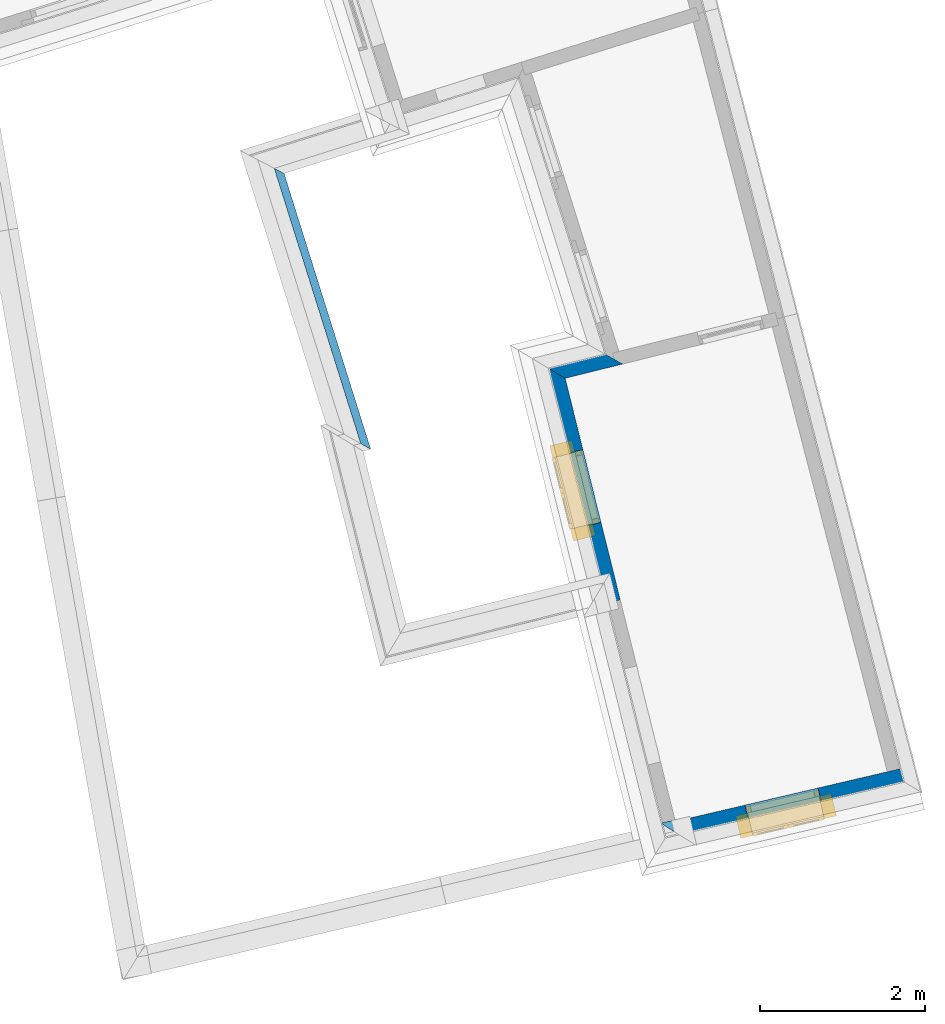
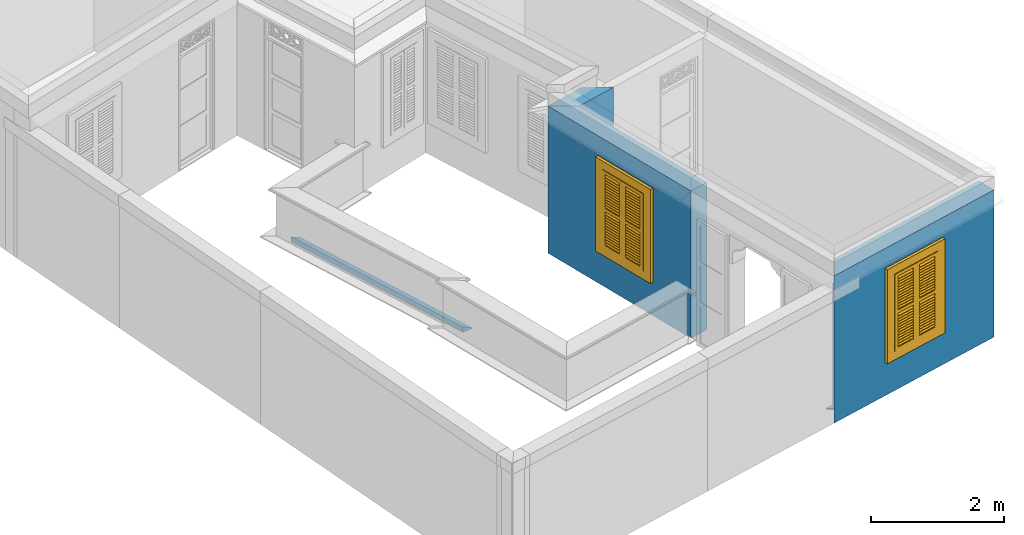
# One storey, part 2 of 13: 5 walls, 2 windows, 2 openings.
"""IFC4 building model written with IfcOpenShell, lengths in metres."""

from ifc_helpers import new_model, si_unit, frame, origin, origin_with_axes, place, context, subcontext, project, spatial, polyline, outline, extrude, clip, halfspace, faceted_brep, source, transform, mapped, material, layer, layer_set, layer_usage, material_profile, profile_set, profile_usage, type_object, type_shapes, element, fill, save


model = new_model("IFC4")

# Units and contexts
model_context = context("Model", 3, world=origin_with_axes())
body_context = subcontext(model_context, "Body", "Model", "MODEL_VIEW")
ifc_project = project(units=[si_unit("PLANEANGLEUNIT", "RADIAN"), si_unit("MASSUNIT", "GRAM", prefix="KILO"), si_unit("FORCEUNIT", "NEWTON", prefix="KILO"), si_unit("LENGTHUNIT", "METRE"), si_unit("AREAUNIT", "SQUARE_METRE"), si_unit("VOLUMEUNIT", "CUBIC_METRE")], contexts=[model_context, model_context])

# Site, building, storey
site_placement = place(None, origin_with_axes())
site = spatial("IfcSite", under=ifc_project, at=site_placement, Name="Site plot-0", CompositionType="ELEMENT")
building_placement = place(None, origin_with_axes())
building = spatial("IfcBuilding", under=site, at=building_placement, Name="Building plot-0", CompositionType="ELEMENT")
storey_placement = place(None, frame((0.0, 0.0, 3.6), z_axis=(0.0, 0.0, 1.0), x_axis=(1.0, 0.0, 0.0)))
storey = spatial("IfcBuildingStorey", under=building, at=storey_placement, Name="plot-0 1", CompositionType="ELEMENT", Elevation=3.6)

# Wall
ifc_material = material(Name="Masonry")
ifc_layer = layer(ifc_material, 0.33, ventilated=False)
ifc_layer_set = layer_set([ifc_layer], Name="exterior_0.08_0.25")
ifc_layer_usage = layer_usage(ifc_layer_set, "AXIS2", "POSITIVE", -0.25)
wall_type_1 = type_object("IfcWallType", Name="exterior_0.08_0.25", PredefinedType="SOLIDWALL", material=ifc_layer_set)
wall_1_placement = place(storey_placement, frame((7.44525118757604, 6.24690220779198, 0.0), z_axis=(0.0, 0.0, 1.0), x_axis=(-0.970472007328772, -0.241213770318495, 0.0)))
element("IfcWall", 1, at=wall_1_placement, inside=storey, type_object=wall_type_1, material=ifc_layer_usage, Name="exterior", context=body_context, shape_type="SweptSolid", body=[
    extrude(outline(polyline([(-0.0850170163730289, 0.0799999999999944), (0.265678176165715, -0.250000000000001), (0.963971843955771, -0.25), (0.633971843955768, 0.0799999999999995), (-0.0850170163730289, 0.0799999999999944)])), origin_with_axes(), (0.0, 0.0, 1.0), 2.7),
])

# Wall, opening, window
wall_2_placement = place(storey_placement, frame((6.75236149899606, 6.07468236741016, 0.0), z_axis=(0.0, 0.0, 1.0), x_axis=(0.241213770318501, -0.970472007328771, 0.0)))
wall_2 = element("IfcWall", 2, at=wall_2_placement, inside=storey, type_object=wall_type_1, material=ifc_layer_usage, Name="exterior", context=body_context, shape_type="SweptSolid", body=[
    extrude(outline(polyline([(0.0799999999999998, 0.0800000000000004), (-0.250000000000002, -0.250000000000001), (2.84744784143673, -0.25), (2.84744784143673, 0.08), (0.0799999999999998, 0.0800000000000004)])), origin_with_axes(), (0.0, 0.0, 1.0), 2.7),
])
opening_1_placement = place(wall_2_placement, frame((0.968723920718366, 0.0, 0.75)))
opening_1 = element("IfcOpeningElement", 3, at=opening_1_placement, cuts=wall_2, Name="My Opening", ObjectType="Opening", context=body_context, shape_type="SweptSolid", body=[
    extrude(outline(polyline([(0.0, -0.269999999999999), (0.910000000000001, -0.27), (0.91, 1.1), (-3.33066907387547e-16, 1.1), (0.0, -0.269999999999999)])), origin_with_axes(), (0.0, 0.0, 1.0), 1.445),
])
window_type = type_object("IfcWindowType", Name="shuttered_shorter", PartitioningType="DOUBLE_PANEL_HORIZONTAL", PredefinedType="NOTDEFINED")
shared_shape = source(origin(), body_context, "Body", "Brep", [
    faceted_brep([(0.393, 0.0, 0.622), (0.074, 0.0, 0.622), (0.074, 0.0, 0.632), (0.393, 0.0, 0.632), (0.074, -0.04, 0.592), (0.393, -0.04, 0.592), (0.393, -0.04, 0.582), (0.074, -0.04, 0.582), (0.517, 0.0, 0.682), (0.836, 0.0, 0.682), (0.836, 0.0, 0.672), (0.517, 0.0, 0.672), (0.517, -0.04, 0.642), (0.836, -0.04, 0.642), (0.836, -0.04, 0.632), (0.517, -0.04, 0.632), (0.517, 0.0, 0.632), (0.836, 0.0, 0.632), (0.836, 0.0, 0.622), (0.517, 0.0, 0.622), (0.517, -0.04, 0.592), (0.836, -0.04, 0.592), (0.836, -0.04, 0.582), (0.517, -0.04, 0.582), (0.517, 0.0, 0.232), (0.836, 0.0, 0.232), (0.836, 0.0, 0.222), (0.517, 0.0, 0.222), (0.517, -0.04, 0.192), (0.836, -0.04, 0.192), (0.836, -0.04, 0.182), (0.517, -0.04, 0.182), (0.517, 0.0, 0.532), (0.836, 0.0, 0.532), (0.836, 0.0, 0.522), (0.517, 0.0, 0.522), (0.517, -0.04, 0.492), (0.836, -0.04, 0.492), (0.836, -0.04, 0.482), (0.517, -0.04, 0.482), (0.517, 0.0, 0.482), (0.836, 0.0, 0.482), (0.836, 0.0, 0.472), (0.517, 0.0, 0.472), (0.517, -0.04, 0.442), (0.836, -0.04, 0.442), (0.836, -0.04, 0.432), (0.517, -0.04, 0.432), (0.517, 0.0, 0.582), (0.836, 0.0, 0.582), (0.836, 0.0, 0.572), (0.517, 0.0, 0.572), (0.517, -0.04, 0.542), (0.836, -0.04, 0.542), (0.836, -0.04, 0.532), (0.517, -0.04, 0.532), (0.517, 0.0, 0.182), (0.836, 0.0, 0.182), (0.836, 0.0, 0.172), (0.517, 0.0, 0.172), (0.517, -0.04, 0.142), (0.836, -0.04, 0.142), (0.836, -0.04, 0.132), (0.517, -0.04, 0.132), (0.517, 0.0, 0.382), (0.836, 0.0, 0.382), (0.836, 0.0, 0.372), (0.517, 0.0, 0.372), (0.517, -0.04, 0.342), (0.836, -0.04, 0.342), (0.836, -0.04, 0.332), (0.517, -0.04, 0.332), (0.517, 0.0, 0.432), (0.836, 0.0, 0.432), (0.836, 0.0, 0.422), (0.517, 0.0, 0.422), (0.517, -0.04, 0.392), (0.836, -0.04, 0.392), (0.836, -0.04, 0.382), (0.517, -0.04, 0.382), (0.517, 0.0, 0.132), (0.836, 0.0, 0.132), (0.836, 0.0, 0.122), (0.517, 0.0, 0.122), (0.517, -0.04, 0.092), (0.836, -0.04, 0.092), (0.836, -0.04, 0.082), (0.517, -0.04, 0.082), (0.517, 0.0, 0.282), (0.836, 0.0, 0.282), (0.836, 0.0, 0.272), (0.517, 0.0, 0.272), (0.517, -0.04, 0.242), (0.836, -0.04, 0.242), (0.836, -0.04, 0.232), (0.517, -0.04, 0.232), (0.517, 0.0, 0.332), (0.836, 0.0, 0.332), (0.836, 0.0, 0.322), (0.517, 0.0, 0.322), (0.517, -0.04, 0.292), (0.836, -0.04, 0.292), (0.836, -0.04, 0.282), (0.517, -0.04, 0.282), (0.517, 0.0, 1.362667), (0.836, 0.0, 1.362667), (0.836, 0.0, 1.352667), (0.517, 0.0, 1.352667), (0.517, -0.04, 1.322667), (0.836, -0.04, 1.322667), (0.836, -0.04, 1.312667), (0.517, -0.04, 1.312667), (0.517, 0.0, 1.312667), (0.836, 0.0, 1.312667), (0.836, 0.0, 1.302667), (0.517, 0.0, 1.302667), (0.517, -0.04, 1.272667), (0.836, -0.04, 1.272667), (0.836, -0.04, 1.262667), (0.517, -0.04, 1.262667), (0.517, 0.0, 0.912667), (0.836, 0.0, 0.912667), (0.836, 0.0, 0.902667), (0.517, 0.0, 0.902667), (0.517, -0.04, 0.872667), (0.836, -0.04, 0.872667), (0.836, -0.04, 0.862667), (0.517, -0.04, 0.862667), (0.517, 0.0, 1.212667), (0.836, 0.0, 1.212667), (0.836, 0.0, 1.202667), (0.517, 0.0, 1.202667), (0.517, -0.04, 1.172667), (0.836, -0.04, 1.172667), (0.836, -0.04, 1.162667), (0.517, -0.04, 1.162667), (0.517, 0.0, 1.162667), (0.836, 0.0, 1.162667), (0.836, 0.0, 1.152667), (0.517, 0.0, 1.152667), (0.517, -0.04, 1.122667), (0.836, -0.04, 1.122667), (0.836, -0.04, 1.112667), (0.517, -0.04, 1.112667), (0.517, 0.0, 1.262667), (0.836, 0.0, 1.262667), (0.836, 0.0, 1.252667), (0.517, 0.0, 1.252667), (0.517, -0.04, 1.222667), (0.836, -0.04, 1.222667), (0.836, -0.04, 1.212667), (0.517, -0.04, 1.212667), (0.517, 0.0, 0.862667), (0.836, 0.0, 0.862667), (0.836, 0.0, 0.852667), (0.517, 0.0, 0.852667), (0.517, -0.04, 0.822667), (0.836, -0.04, 0.822667), (0.836, -0.04, 0.812667), (0.517, -0.04, 0.812667), (0.517, 0.0, 1.062667), (0.836, 0.0, 1.062667), (0.836, 0.0, 1.052667), (0.517, 0.0, 1.052667), (0.517, -0.04, 1.022667), (0.836, -0.04, 1.022667), (0.836, -0.04, 1.012667), (0.517, -0.04, 1.012667), (0.517, 0.0, 1.112667), (0.836, 0.0, 1.112667), (0.836, 0.0, 1.102667), (0.517, 0.0, 1.102667), (0.517, -0.04, 1.072667), (0.836, -0.04, 1.072667), (0.836, -0.04, 1.062667), (0.517, -0.04, 1.062667), (0.517, 0.0, 0.812667), (0.836, 0.0, 0.812667), (0.836, 0.0, 0.802667), (0.517, 0.0, 0.802667), (0.517, -0.04, 0.772667), (0.836, -0.04, 0.772667), (0.836, -0.04, 0.762667), (0.517, -0.04, 0.762667), (0.517, 0.0, 0.962667), (0.836, 0.0, 0.962667), (0.836, 0.0, 0.952667), (0.517, 0.0, 0.952667), (0.517, -0.04, 0.922667), (0.836, -0.04, 0.922667), (0.836, -0.04, 0.912667), (0.517, -0.04, 0.912667), (0.517, 0.0, 1.012667), (0.836, 0.0, 1.012667), (0.836, 0.0, 1.002667), (0.517, 0.0, 1.002667), (0.517, -0.04, 0.972667), (0.836, -0.04, 0.972667), (0.836, -0.04, 0.962667), (0.517, -0.04, 0.962667), (0.074, 0.0, 0.682), (0.393, 0.0, 0.682), (0.393, 0.0, 0.672), (0.074, 0.0, 0.672), (0.074, -0.04, 0.642), (0.393, -0.04, 0.642), (0.393, -0.04, 0.632), (0.074, -0.04, 0.632), (0.074, 0.0, 0.232), (0.393, 0.0, 0.232), (0.393, 0.0, 0.222), (0.074, 0.0, 0.222), (0.074, -0.04, 0.192), (0.393, -0.04, 0.192), (0.393, -0.04, 0.182), (0.074, -0.04, 0.182), (0.074, 0.0, 0.532), (0.393, 0.0, 0.532), (0.393, 0.0, 0.522), (0.074, 0.0, 0.522), (0.074, -0.04, 0.492), (0.393, -0.04, 0.492), (0.393, -0.04, 0.482), (0.074, -0.04, 0.482), (0.074, 0.0, 0.482), (0.393, 0.0, 0.482), (0.393, 0.0, 0.472), (0.074, 0.0, 0.472), (0.074, -0.04, 0.442), (0.393, -0.04, 0.442), (0.393, -0.04, 0.432), (0.074, -0.04, 0.432), (0.074, 0.0, 0.582), (0.393, 0.0, 0.582), (0.393, 0.0, 0.572), (0.074, 0.0, 0.572), (0.074, -0.04, 0.542), (0.393, -0.04, 0.542), (0.393, -0.04, 0.532), (0.074, -0.04, 0.532), (0.074, 0.0, 0.182), (0.393, 0.0, 0.182), (0.393, 0.0, 0.172), (0.074, 0.0, 0.172), (0.074, -0.04, 0.142), (0.393, -0.04, 0.142), (0.393, -0.04, 0.132), (0.074, -0.04, 0.132), (0.074, 0.0, 0.382), (0.393, 0.0, 0.382), (0.393, 0.0, 0.372), (0.074, 0.0, 0.372), (0.074, -0.04, 0.342), (0.393, -0.04, 0.342), (0.393, -0.04, 0.332), (0.074, -0.04, 0.332), (0.074, 0.0, 0.432), (0.393, 0.0, 0.432), (0.393, 0.0, 0.422), (0.074, 0.0, 0.422), (0.074, -0.04, 0.392), (0.393, -0.04, 0.392), (0.393, -0.04, 0.382), (0.074, -0.04, 0.382), (0.074, 0.0, 0.132), (0.393, 0.0, 0.132), (0.393, 0.0, 0.122), (0.074, 0.0, 0.122), (0.074, -0.04, 0.092), (0.393, -0.04, 0.092), (0.393, -0.04, 0.082), (0.074, -0.04, 0.082), (0.074, 0.0, 0.282), (0.393, 0.0, 0.282), (0.393, 0.0, 0.272), (0.074, 0.0, 0.272), (0.074, -0.04, 0.242), (0.393, -0.04, 0.242), (0.393, -0.04, 0.232), (0.074, -0.04, 0.232), (0.074, 0.0, 0.332), (0.393, 0.0, 0.332), (0.393, 0.0, 0.322), (0.074, 0.0, 0.322), (0.074, -0.04, 0.292), (0.393, -0.04, 0.292), (0.393, -0.04, 0.282), (0.074, -0.04, 0.282), (0.074, 0.0, 1.362667), (0.393, 0.0, 1.362667), (0.393, 0.0, 1.352667), (0.074, 0.0, 1.352667), (0.074, -0.04, 1.322667), (0.393, -0.04, 1.322667), (0.393, -0.04, 1.312667), (0.074, -0.04, 1.312667), (0.074, 0.0, 1.312667), (0.393, 0.0, 1.312667), (0.393, 0.0, 1.302667), (0.074, 0.0, 1.302667), (0.074, -0.04, 1.272667), (0.393, -0.04, 1.272667), (0.393, -0.04, 1.262667), (0.074, -0.04, 1.262667), (0.074, 0.0, 0.912667), (0.393, 0.0, 0.912667), (0.393, 0.0, 0.902667), (0.074, 0.0, 0.902667), (0.074, -0.04, 0.872667), (0.393, -0.04, 0.872667), (0.393, -0.04, 0.862667), (0.074, -0.04, 0.862667), (0.074, 0.0, 1.212667), (0.393, 0.0, 1.212667), (0.393, 0.0, 1.202667), (0.074, 0.0, 1.202667), (0.074, -0.04, 1.172667), (0.393, -0.04, 1.172667), (0.393, -0.04, 1.162667), (0.074, -0.04, 1.162667), (0.074, 0.0, 1.162667), (0.393, 0.0, 1.162667), (0.393, 0.0, 1.152667), (0.074, 0.0, 1.152667), (0.074, -0.04, 1.122667), (0.393, -0.04, 1.122667), (0.393, -0.04, 1.112667), (0.074, -0.04, 1.112667), (0.074, 0.0, 1.262667), (0.393, 0.0, 1.262667), (0.393, 0.0, 1.252667), (0.074, 0.0, 1.252667), (0.074, -0.04, 1.222667), (0.393, -0.04, 1.222667), (0.393, -0.04, 1.212667), (0.074, -0.04, 1.212667), (0.074, 0.0, 0.862667), (0.393, 0.0, 0.862667), (0.393, 0.0, 0.852667), (0.074, 0.0, 0.852667), (0.074, -0.04, 0.822667), (0.393, -0.04, 0.822667), (0.393, -0.04, 0.812667), (0.074, -0.04, 0.812667), (0.074, 0.0, 1.062667), (0.393, 0.0, 1.062667), (0.393, 0.0, 1.052667), (0.074, 0.0, 1.052667), (0.074, -0.04, 1.022667), (0.393, -0.04, 1.022667), (0.393, -0.04, 1.012667), (0.074, -0.04, 1.012667), (0.074, 0.0, 1.112667), (0.393, 0.0, 1.112667), (0.393, 0.0, 1.102667), (0.074, 0.0, 1.102667), (0.074, -0.04, 1.072667), (0.393, -0.04, 1.072667), (0.393, -0.04, 1.062667), (0.074, -0.04, 1.062667), (0.074, 0.0, 0.812667), (0.393, 0.0, 0.812667), (0.393, 0.0, 0.802667), (0.074, 0.0, 0.802667), (0.074, -0.04, 0.772667), (0.393, -0.04, 0.772667), (0.393, -0.04, 0.762667), (0.074, -0.04, 0.762667), (0.074, 0.0, 0.962667), (0.393, 0.0, 0.962667), (0.393, 0.0, 0.952667), (0.074, 0.0, 0.952667), (0.074, -0.04, 0.922667), (0.393, -0.04, 0.922667), (0.393, -0.04, 0.912667), (0.074, -0.04, 0.912667), (0.074, 0.0, 1.012667), (0.393, 0.0, 1.012667), (0.393, 0.0, 1.002667), (0.074, 0.0, 1.002667), (0.074, -0.04, 0.972667), (0.393, -0.04, 0.972667), (0.393, -0.04, 0.962667), (0.074, -0.04, 0.962667), (0.517, -0.04, 0.072), (0.457, -0.04, 0.012), (0.896, -0.04, 0.012), (0.836, -0.04, 0.072), (0.457, -0.04, 0.692667), (0.517, -0.04, 0.692667), (0.457, 0.0, 0.012), (0.896, 0.0, 0.012), (0.836, -0.04, 0.692667), (0.896, -0.04, 0.692667), (0.836, 0.0, 0.072), (0.517, 0.0, 0.072), (0.457, 0.0, 0.692667), (0.517, 0.0, 0.692667), (0.517, -0.04, 0.752666), (0.457, -0.04, 0.752666), (0.896, 0.0, 0.692667), (0.836, 0.0, 0.692667), (0.836, -0.04, 0.752666), (0.896, -0.04, 0.752666), (0.457, 0.0, 0.752666), (0.457, -0.04, 1.433333), (0.517, -0.04, 1.373333), (0.896, 0.0, 0.752666), (0.836, -0.04, 1.373333), (0.896, -0.04, 1.433333), (0.457, 0.0, 1.433333), (0.517, 0.0, 0.752666), (0.836, 0.0, 0.752666), (0.517, 0.0, 1.373333), (0.896, 0.0, 1.433333), (0.836, 0.0, 1.373333), (0.074, -0.04, 0.072), (0.014, -0.04, 0.012), (0.453, -0.04, 0.012), (0.393, -0.04, 0.072), (0.014, -0.04, 0.692667), (0.074, -0.04, 0.692667), (0.014, 0.0, 0.012), (0.453, 0.0, 0.012), (0.393, -0.04, 0.692667), (0.453, -0.04, 0.692667), (0.393, 0.0, 0.072), (0.074, 0.0, 0.072), (0.014, 0.0, 0.692667), (0.074, 0.0, 0.692667), (0.074, -0.04, 0.752666), (0.014, -0.04, 0.752666), (0.453, 0.0, 0.692667), (0.393, 0.0, 0.692667), (0.393, -0.04, 0.752666), (0.453, -0.04, 0.752666), (0.014, 0.0, 0.752666), (0.014, -0.04, 1.433333), (0.074, -0.04, 1.373333), (0.453, 0.0, 0.752666), (0.393, -0.04, 1.373333), (0.453, -0.04, 1.433333), (0.014, 0.0, 1.433333), (0.074, 0.0, 0.752666), (0.393, 0.0, 0.752666), (0.074, 0.0, 1.373333), (0.453, 0.0, 1.433333), (0.393, 0.0, 1.373333), (0.0, 0.33, 1.445), (0.91, 0.33, 1.445), (0.85, 0.33, 1.385), (0.06, 0.33, 1.385), (0.91, 0.25, 1.445), (0.0, 0.25, 1.445), (0.91, 0.25, 1.445), (0.85, 0.33, 0.06), (0.91, 0.33, 0.0), (0.85, 0.25, 1.385), (0.06, 0.25, 1.385), (0.0, 0.33, 0.0), (0.06, 0.33, 0.06), (0.0, 0.25, 0.0), (0.91, 0.25, 0.0), (0.85, 0.25, 0.06), (0.06, 0.25, 0.06), (1.05, 0.25, 1.585), (-0.14, 0.25, 1.585), (-0.14, -0.03, 1.585), (1.05, -0.03, 1.585), (0.9, -0.03, 1.435), (0.01, -0.03, 1.435), (0.01, 0.25, 1.435), (0.9, 0.25, 1.435), (0.9, 0.25, 0.01), (0.9, -0.03, 0.01), (1.05, -0.03, -0.14), (1.05, 0.25, -0.14), (0.01, -0.03, 0.01), (0.01, 0.25, 0.01), (-0.14, -0.03, -0.14), (-0.14, 0.25, -0.14)], [[[0, 1, 2, 3]], [[4, 5, 3, 2]], [[5, 6, 0, 3]], [[1, 0, 6, 7]], [[2, 1, 7, 4]], [[5, 4, 7, 6]], [[8, 9, 10, 11]], [[12, 13, 9, 8]], [[13, 14, 10, 9]], [[14, 15, 11, 10]], [[15, 12, 8, 11]], [[13, 12, 15, 14]], [[16, 17, 18, 19]], [[20, 21, 17, 16]], [[21, 22, 18, 17]], [[22, 23, 19, 18]], [[23, 20, 16, 19]], [[21, 20, 23, 22]], [[24, 25, 26, 27]], [[28, 29, 25, 24]], [[29, 30, 26, 25]], [[30, 31, 27, 26]], [[31, 28, 24, 27]], [[29, 28, 31, 30]], [[32, 33, 34, 35]], [[36, 37, 33, 32]], [[37, 38, 34, 33]], [[38, 39, 35, 34]], [[39, 36, 32, 35]], [[37, 36, 39, 38]], [[40, 41, 42, 43]], [[44, 45, 41, 40]], [[45, 46, 42, 41]], [[46, 47, 43, 42]], [[47, 44, 40, 43]], [[45, 44, 47, 46]], [[48, 49, 50, 51]], [[52, 53, 49, 48]], [[53, 54, 50, 49]], [[54, 55, 51, 50]], [[55, 52, 48, 51]], [[53, 52, 55, 54]], [[56, 57, 58, 59]], [[60, 61, 57, 56]], [[61, 62, 58, 57]], [[62, 63, 59, 58]], [[63, 60, 56, 59]], [[61, 60, 63, 62]], [[64, 65, 66, 67]], [[68, 69, 65, 64]], [[69, 70, 66, 65]], [[70, 71, 67, 66]], [[71, 68, 64, 67]], [[69, 68, 71, 70]], [[72, 73, 74, 75]], [[76, 77, 73, 72]], [[77, 78, 74, 73]], [[78, 79, 75, 74]], [[79, 76, 72, 75]], [[77, 76, 79, 78]], [[80, 81, 82, 83]], [[84, 85, 81, 80]], [[85, 86, 82, 81]], [[86, 87, 83, 82]], [[87, 84, 80, 83]], [[85, 84, 87, 86]], [[88, 89, 90, 91]], [[92, 93, 89, 88]], [[93, 94, 90, 89]], [[94, 95, 91, 90]], [[95, 92, 88, 91]], [[93, 92, 95, 94]], [[96, 97, 98, 99]], [[100, 101, 97, 96]], [[101, 102, 98, 97]], [[102, 103, 99, 98]], [[103, 100, 96, 99]], [[101, 100, 103, 102]], [[104, 105, 106, 107]], [[108, 109, 105, 104]], [[109, 110, 106, 105]], [[110, 111, 107, 106]], [[111, 108, 104, 107]], [[109, 108, 111, 110]], [[112, 113, 114, 115]], [[116, 117, 113, 112]], [[117, 118, 114, 113]], [[118, 119, 115, 114]], [[119, 116, 112, 115]], [[117, 116, 119, 118]], [[120, 121, 122, 123]], [[124, 125, 121, 120]], [[125, 126, 122, 121]], [[126, 127, 123, 122]], [[127, 124, 120, 123]], [[125, 124, 127, 126]], [[128, 129, 130, 131]], [[132, 133, 129, 128]], [[133, 134, 130, 129]], [[134, 135, 131, 130]], [[135, 132, 128, 131]], [[133, 132, 135, 134]], [[136, 137, 138, 139]], [[140, 141, 137, 136]], [[141, 142, 138, 137]], [[142, 143, 139, 138]], [[139, 143, 140, 136]], [[141, 140, 143, 142]], [[144, 145, 146, 147]], [[148, 149, 145, 144]], [[149, 150, 146, 145]], [[150, 151, 147, 146]], [[151, 148, 144, 147]], [[149, 148, 151, 150]], [[152, 153, 154, 155]], [[156, 157, 153, 152]], [[157, 158, 154, 153]], [[158, 159, 155, 154]], [[159, 156, 152, 155]], [[157, 156, 159, 158]], [[160, 161, 162, 163]], [[164, 165, 161, 160]], [[165, 166, 162, 161]], [[166, 167, 163, 162]], [[167, 164, 160, 163]], [[165, 164, 167, 166]], [[168, 169, 170, 171]], [[172, 173, 169, 168]], [[173, 174, 170, 169]], [[174, 175, 171, 170]], [[175, 172, 168, 171]], [[173, 172, 175, 174]], [[176, 177, 178, 179]], [[180, 181, 177, 176]], [[181, 182, 178, 177]], [[182, 183, 179, 178]], [[183, 180, 176, 179]], [[181, 180, 183, 182]], [[184, 185, 186, 187]], [[188, 189, 185, 184]], [[189, 190, 186, 185]], [[190, 191, 187, 186]], [[191, 188, 184, 187]], [[189, 188, 191, 190]], [[192, 193, 194, 195]], [[196, 197, 193, 192]], [[197, 198, 194, 193]], [[198, 199, 195, 194]], [[199, 196, 192, 195]], [[197, 196, 199, 198]], [[200, 201, 202, 203]], [[204, 205, 201, 200]], [[205, 206, 202, 201]], [[206, 207, 203, 202]], [[207, 204, 200, 203]], [[205, 204, 207, 206]], [[208, 209, 210, 211]], [[212, 213, 209, 208]], [[213, 214, 210, 209]], [[214, 215, 211, 210]], [[215, 212, 208, 211]], [[213, 212, 215, 214]], [[216, 217, 218, 219]], [[220, 221, 217, 216]], [[221, 222, 218, 217]], [[222, 223, 219, 218]], [[223, 220, 216, 219]], [[221, 220, 223, 222]], [[224, 225, 226, 227]], [[228, 229, 225, 224]], [[229, 230, 226, 225]], [[230, 231, 227, 226]], [[231, 228, 224, 227]], [[229, 228, 231, 230]], [[232, 233, 234, 235]], [[236, 237, 233, 232]], [[237, 238, 234, 233]], [[238, 239, 235, 234]], [[239, 236, 232, 235]], [[237, 236, 239, 238]], [[240, 241, 242, 243]], [[244, 245, 241, 240]], [[245, 246, 242, 241]], [[246, 247, 243, 242]], [[247, 244, 240, 243]], [[245, 244, 247, 246]], [[248, 249, 250, 251]], [[252, 253, 249, 248]], [[253, 254, 250, 249]], [[254, 255, 251, 250]], [[255, 252, 248, 251]], [[253, 252, 255, 254]], [[256, 257, 258, 259]], [[260, 261, 257, 256]], [[261, 262, 258, 257]], [[262, 263, 259, 258]], [[263, 260, 256, 259]], [[261, 260, 263, 262]], [[264, 265, 266, 267]], [[268, 269, 265, 264]], [[269, 270, 266, 265]], [[270, 271, 267, 266]], [[271, 268, 264, 267]], [[269, 268, 271, 270]], [[272, 273, 274, 275]], [[276, 277, 273, 272]], [[277, 278, 274, 273]], [[278, 279, 275, 274]], [[279, 276, 272, 275]], [[277, 276, 279, 278]], [[280, 281, 282, 283]], [[284, 285, 281, 280]], [[285, 286, 282, 281]], [[286, 287, 283, 282]], [[287, 284, 280, 283]], [[285, 284, 287, 286]], [[288, 289, 290, 291]], [[292, 293, 289, 288]], [[293, 294, 290, 289]], [[294, 295, 291, 290]], [[295, 292, 288, 291]], [[293, 292, 295, 294]], [[296, 297, 298, 299]], [[300, 301, 297, 296]], [[301, 302, 298, 297]], [[302, 303, 299, 298]], [[303, 300, 296, 299]], [[301, 300, 303, 302]], [[304, 305, 306, 307]], [[308, 309, 305, 304]], [[309, 310, 306, 305]], [[310, 311, 307, 306]], [[311, 308, 304, 307]], [[309, 308, 311, 310]], [[312, 313, 314, 315]], [[316, 317, 313, 312]], [[317, 318, 314, 313]], [[318, 319, 315, 314]], [[319, 316, 312, 315]], [[317, 316, 319, 318]], [[320, 321, 322, 323]], [[324, 325, 321, 320]], [[325, 326, 322, 321]], [[326, 327, 323, 322]], [[327, 324, 320, 323]], [[325, 324, 327, 326]], [[328, 329, 330, 331]], [[332, 333, 329, 328]], [[333, 334, 330, 329]], [[334, 335, 331, 330]], [[335, 332, 328, 331]], [[333, 332, 335, 334]], [[336, 337, 338, 339]], [[340, 341, 337, 336]], [[341, 342, 338, 337]], [[342, 343, 339, 338]], [[343, 340, 336, 339]], [[341, 340, 343, 342]], [[344, 345, 346, 347]], [[348, 349, 345, 344]], [[349, 350, 346, 345]], [[350, 351, 347, 346]], [[351, 348, 344, 347]], [[349, 348, 351, 350]], [[352, 353, 354, 355]], [[356, 357, 353, 352]], [[357, 358, 354, 353]], [[358, 359, 355, 354]], [[359, 356, 352, 355]], [[357, 356, 359, 358]], [[360, 361, 362, 363]], [[364, 365, 361, 360]], [[365, 366, 362, 361]], [[366, 367, 363, 362]], [[367, 364, 360, 363]], [[365, 364, 367, 366]], [[368, 369, 370, 371]], [[372, 373, 369, 368]], [[373, 374, 370, 369]], [[374, 375, 371, 370]], [[375, 372, 368, 371]], [[373, 372, 375, 374]], [[376, 377, 378, 379]], [[380, 381, 377, 376]], [[381, 382, 378, 377]], [[382, 383, 379, 378]], [[383, 380, 376, 379]], [[381, 380, 383, 382]], [[384, 385, 386, 387]], [[388, 385, 384, 389]], [[390, 391, 386, 385]], [[392, 387, 386, 393]], [[384, 387, 394, 395]], [[390, 385, 388, 396]], [[389, 384, 395, 397]], [[389, 398, 399, 388]], [[390, 395, 394, 391]], [[400, 393, 386, 391]], [[387, 392, 401, 394]], [[402, 392, 393, 403]], [[396, 388, 399, 404]], [[390, 396, 397, 395]], [[392, 389, 397, 401]], [[398, 389, 392, 402]], [[405, 399, 398, 406]], [[394, 401, 400, 391]], [[407, 403, 393, 400]], [[408, 402, 403, 409]], [[404, 399, 405, 410]], [[411, 397, 396, 404]], [[397, 411, 412, 401]], [[398, 402, 412, 411]], [[406, 398, 411, 413]], [[405, 406, 408, 409]], [[401, 412, 407, 400]], [[414, 409, 403, 407]], [[402, 408, 415, 412]], [[405, 409, 414, 410]], [[404, 410, 413, 411]], [[408, 406, 413, 415]], [[412, 415, 414, 407]], [[413, 410, 414, 415]], [[416, 417, 418, 419]], [[420, 417, 416, 421]], [[422, 423, 418, 417]], [[424, 419, 418, 425]], [[416, 419, 426, 427]], [[422, 417, 420, 428]], [[421, 416, 427, 429]], [[421, 430, 431, 420]], [[422, 427, 426, 423]], [[432, 425, 418, 423]], [[419, 424, 433, 426]], [[434, 424, 425, 435]], [[428, 420, 431, 436]], [[422, 428, 429, 427]], [[424, 421, 429, 433]], [[430, 421, 424, 434]], [[437, 431, 430, 438]], [[426, 433, 432, 423]], [[439, 435, 425, 432]], [[440, 434, 435, 441]], [[436, 431, 437, 442]], [[443, 429, 428, 436]], [[429, 443, 444, 433]], [[430, 434, 444, 443]], [[438, 430, 443, 445]], [[437, 438, 440, 441]], [[433, 444, 439, 432]], [[446, 441, 435, 439]], [[434, 440, 447, 444]], [[437, 441, 446, 442]], [[436, 442, 445, 443]], [[440, 438, 445, 447]], [[444, 447, 446, 439]], [[445, 442, 446, 447]], [[448, 449, 450, 451]], [[452, 449, 448]], [[448, 453, 454]], [[448, 454, 452]], [[455, 450, 449, 456]], [[451, 450, 457, 458]], [[459, 448, 451, 460]], [[448, 459, 461, 453]], [[454, 453, 458, 457]], [[462, 452, 454]], [[454, 457, 463]], [[454, 463, 462]], [[456, 449, 452, 462]], [[450, 455, 463, 457]], [[456, 459, 460, 455]], [[460, 451, 458, 464]], [[459, 456, 462, 461]], [[464, 458, 453, 461]], [[461, 462, 463, 464]], [[455, 460, 464, 463]], [[465, 466, 467, 468]], [[469, 470, 471, 472]], [[473, 474, 469, 472]], [[465, 468, 475, 476]], [[470, 477, 478, 471]], [[474, 473, 478, 477]], [[474, 477, 479, 475]], [[470, 467, 479, 477]], [[470, 469, 468, 467]], [[474, 475, 468, 469]], [[471, 478, 480, 466]], [[473, 472, 465, 476]], [[473, 476, 480, 478]], [[466, 465, 472, 471]], [[480, 476, 475, 479]], [[480, 479, 467, 466]]]),
])
type_shapes(window_type, [shared_shape])
window_1_placement = place(storey_placement, frame((6.72400360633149, 5.06943520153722, 0.75), z_axis=(0.0, 0.0, 1.0), x_axis=(0.219504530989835, -0.883129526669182, 0.0)))
window_1 = element("IfcWindow", 4, at=window_1_placement, inside=storey, type_object=window_type, Name="circulation sahn window", OverallHeight=1.445, OverallWidth=0.91, context=body_context, shape_type="MappedRepresentation", body=[
    mapped(shared_shape, transform((0.0, 0.0, 0.0), scale=1.0)),
])
fill(opening_1, window_1)

wall_3_placement = place(storey_placement, frame((8.12533742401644, 0.550807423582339, 0.0), z_axis=(0.0, 0.0, 1.0), x_axis=(0.973652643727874, 0.22803624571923, 0.0)))
wall_3 = element("IfcWall", 5, at=wall_3_placement, inside=storey, type_object=wall_type_1, material=ifc_layer_usage, Name="exterior", context=body_context, shape_type="SweptSolid", body=[
    extrude(outline(polyline([(0.0789228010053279, 0.0799999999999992), (-0.246633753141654, -0.250000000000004), (3.05017522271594, -0.25), (3.05017522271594, 0.08), (0.0789228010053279, 0.0799999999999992)])), origin_with_axes(), (0.0, 0.0, 1.0), 2.7),
])
opening_2_placement = place(wall_3_placement, frame((0.945087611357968, 0.0, 0.75)))
opening_2 = element("IfcOpeningElement", 6, at=opening_2_placement, cuts=wall_3, Name="My Opening", ObjectType="Opening", context=body_context, shape_type="SweptSolid", body=[
    extrude(outline(polyline([(0.0, -0.27), (0.91, -0.27), (0.910000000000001, 1.1), (8.88178419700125e-16, 1.1), (0.0, -0.27)])), origin_with_axes(), (0.0, 0.0, 1.0), 1.445),
])
window_2_placement = place(storey_placement, frame((9.10709426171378, 0.503435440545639, 0.75), z_axis=(0.0, 0.0, 1.0), x_axis=(0.886023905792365, 0.207512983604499, 0.0)))
window_2 = element("IfcWindow", 7, at=window_2_placement, inside=storey, type_object=window_type, Name="circulation outside window", OverallHeight=1.445, OverallWidth=0.91, context=body_context, shape_type="MappedRepresentation", body=[
    mapped(shared_shape, transform((0.0, 0.0, 0.0), scale=1.0)),
])
fill(opening_2, window_2)

# Walls
ifc_material_profile_1 = material_profile(None, outline(polyline([(0.25, 0.0), (0.25, 2.245), (0.05, 2.245), (0.05, 0.02), (-0.08, 0.02), (-0.08, 0.0), (0.25, 0.0)])))
ifc_profile_set_1 = profile_set([ifc_material_profile_1])
ifc_profile_usage_1 = profile_usage(ifc_profile_set_1)
wall_type_2 = type_object("IfcWallType", Name="parapet street_0", PredefinedType="PARAPET", material=ifc_profile_set_1)
wall_4_placement = place(storey_placement, frame((7.87449755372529, 1.621825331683, 0.0), z_axis=(0.228036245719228, -0.973652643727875, 0.0), x_axis=(0.973652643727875, 0.228036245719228, 0.0)))
element("IfcWall", 8, at=wall_4_placement, inside=storey, type_object=wall_type_2, material=ifc_profile_usage_1, Name="parapet street_0", context=body_context, shape_type="Clipping", body=[
    clip(clip(extrude(outline(polyline([(0.25, 0.0), (0.25, 2.245), (0.05, 2.245), (0.05, 0.02), (-0.08, 0.02), (-0.08, 0.0), (0.25, 0.0)])), origin_with_axes(), (0.0, 0.0, 1.0), 2.1), halfspace(frame((0.0, 0.0, 1.1), z_axis=(0.707106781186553, 0.0, -0.707106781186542), x_axis=(0.0, 1.0, 0.0)), True)), halfspace(frame((0.0, 0.0, 1.0), z_axis=(1.60812264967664e-16, 0.0, -1.0), x_axis=(0.0, 1.0, 0.0)), False)),
])
ifc_material_profile_2 = material_profile(None, outline(polyline([(0.25, -0.1), (0.265, -0.1), (0.265, -0.085), (0.278, -0.084), (0.289, -0.081), (0.301, -0.074), (0.309, -0.065), (0.315, -0.055), (0.324, -0.044), (0.334, -0.038), (0.345, -0.035), (0.345, -0.015), (0.25, 0.0), (0.25, -0.1)])))
ifc_profile_set_2 = profile_set([ifc_material_profile_2])
ifc_profile_usage_2 = profile_usage(ifc_profile_set_2)
wall_type_3 = type_object("IfcWallType", Name="parapet internal_2", PredefinedType="PARAPET", material=ifc_profile_set_2)
wall_5_placement = place(storey_placement, frame((2.71061005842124, 9.67832569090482, 0.0), z_axis=(0.299724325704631, -0.954025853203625, 0.0), x_axis=(0.954025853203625, 0.299724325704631, 0.0)))
element("IfcWall", 9, at=wall_5_placement, inside=storey, type_object=wall_type_3, material=ifc_profile_usage_2, Name="parapet internal_2", context=body_context, shape_type="Clipping", body=[
    clip(clip(extrude(outline(polyline([(0.25, -0.1), (0.265, -0.1), (0.265, -0.085), (0.278, -0.084), (0.289, -0.081), (0.301, -0.074), (0.309, -0.065), (0.315, -0.055), (0.324, -0.044), (0.334, -0.038), (0.345, -0.035), (0.345, -0.015), (0.25, 0.0), (0.25, -0.1)])), origin_with_axes(), (0.0, 0.0, 1.0), 5.48043635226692), halfspace(frame((0.0, 0.0, 4.48043635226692), z_axis=(0.728268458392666, 0.0, -0.685291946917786), x_axis=(0.0, 1.0, 0.0)), True)), halfspace(frame((0.0, 0.0, 1.0), z_axis=(0.707106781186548, 0.0, -0.707106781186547), x_axis=(0.0, 1.0, 0.0)), False)),
])

save(model, "model.ifc")
